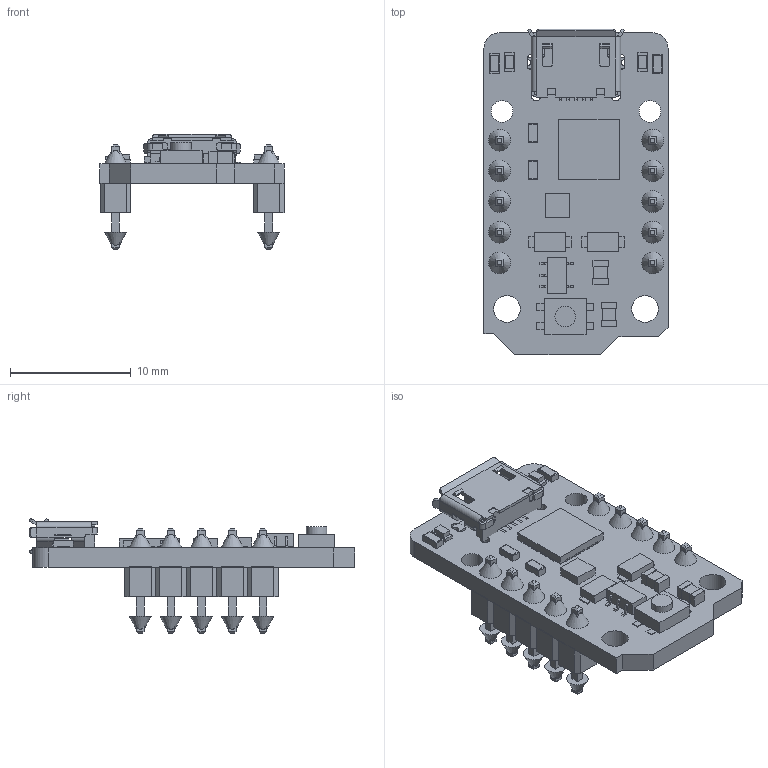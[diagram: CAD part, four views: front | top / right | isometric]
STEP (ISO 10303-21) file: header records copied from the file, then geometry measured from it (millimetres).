
FILE_DESCRIPTION(/* description */ ('STEP AP242','CAx-IF Rec.Pracs.---Representation and Presentation of Product Manufacturing Information (PMI)---4.0---2014-10-13','CAx-IF Rec.Pracs.---3D Tessellated Geometry---0.4---2014-09-14','2;1'),/* implementation_level */ '2;1');
FILE_NAME(/* name */ '63068cd972835b144c36856e',/* time_stamp */ '2022-08-24T20:41:00+00:00',/* author */ (''),/* organization */ (''),/* preprocessor_version */ 'ST-DEVELOPER v18.102',/* originating_system */ ' ',/* authorisation */ ' ');
FILE_SCHEMA (('AP242_MANAGED_MODEL_BASED_3D_ENGINEERING_MIM_LF { 1 0 10303 442 1 1 4 }'));
Length unit declared in the file: metre
Products named in the file (25): Trinket M0; SOLID_1; COMPOUND; SOLID; _autosave-Trinket M0 rev D PCB; SOLID_3; SOLID_2
Assembly tree (24 placements, depth 2):
  Trinket M0
    SOLID_1
    COMPOUND
    COMPOUND
    COMPOUND
    SOLID
    COMPOUND
    _autosave-Trinket M0 rev D PCB
    SOLID_1
    SOLID
    SOLID
    COMPOUND
    COMPOUND
    SOLID
    SOLID
    SOLID
    SOLID
    SOLID
    SOLID_1
    SOLID_3
    SOLID_1
    SOLID_2
    SOLID
    SOLID_1
    COMPOUND
Bounding box: 15.24 x 26.98 x 9.55 mm (x, y, z)
Volume: 887.7 mm3; surface area: 2018.2 mm2
Topology: 24 solids, 24 shells, 1207 faces, 3178 edges, 2073 vertices
Faces by surface type: plane 975, cylinder 210, cone 22
Full cylindrical faces by diameter (mm): 0.45 x2, 0.7 x2, 0.806 x2, 1 x10, 1.7 x1, 1.8 x2, 2.2 x2
Entity records: 38795 total; most frequent: CARTESIAN_POINT 7038, ORIENTED_EDGE 6250, DIRECTION 5853, EDGE_CURVE 3125, LINE 2611, VECTOR 2611, VERTEX_POINT 2063, AXIS2_PLACEMENT_3D 1621
